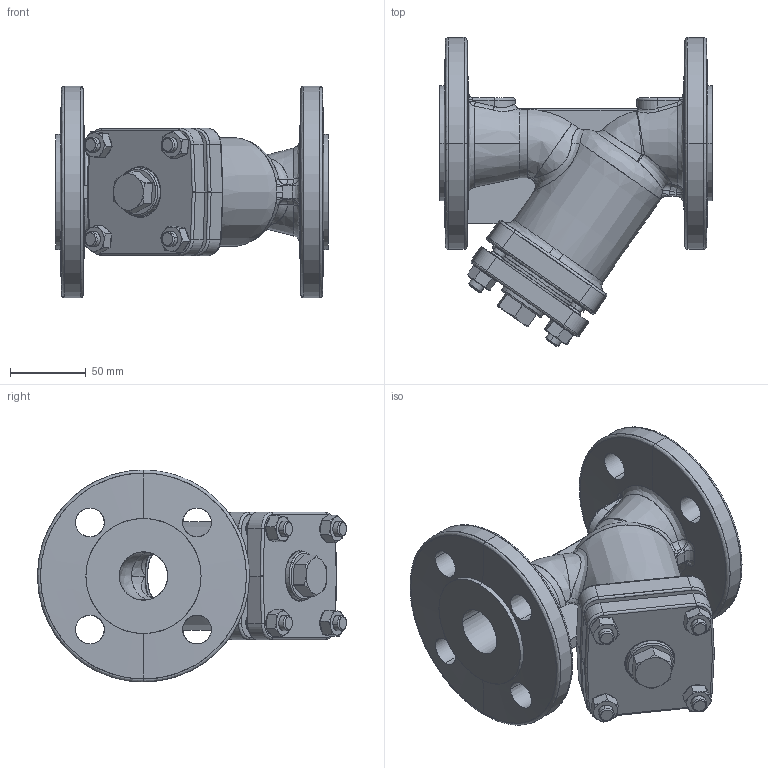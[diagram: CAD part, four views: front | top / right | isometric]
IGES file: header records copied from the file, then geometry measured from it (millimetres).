
Start section: SolidWorks IGES file using analytic representation for surfaces
Global section: file name: D:\katalog z³o¿eñ\00_Gotowe\821\RYSUNKI DXF\Z£O¯ENIA\Part\821_DN32_PN16.IGS; native system: SolidWorks 2010; preprocessor: SolidWorks 2010; author: alisowsk; date: 100108.123108; units: millimetre
Bounding box: 180 x 204.1 x 140 mm (x, y, z)
Surface area: 188204.7 mm2 (no closed solid volume)
Topology: 0 solids, 0 shells, 574 faces, 8436 edges, 8430 vertices
Faces by surface type: revolution 290, bspline 284
